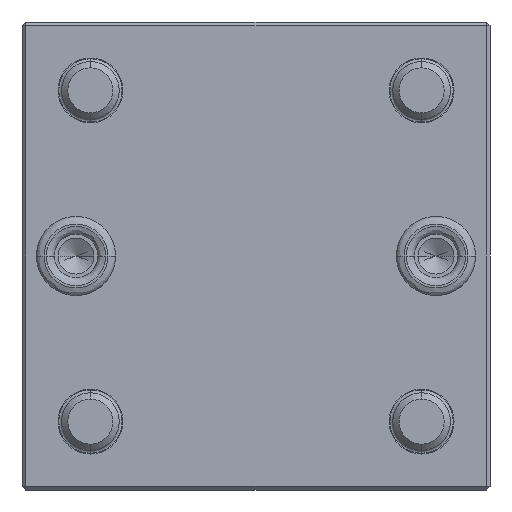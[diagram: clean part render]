
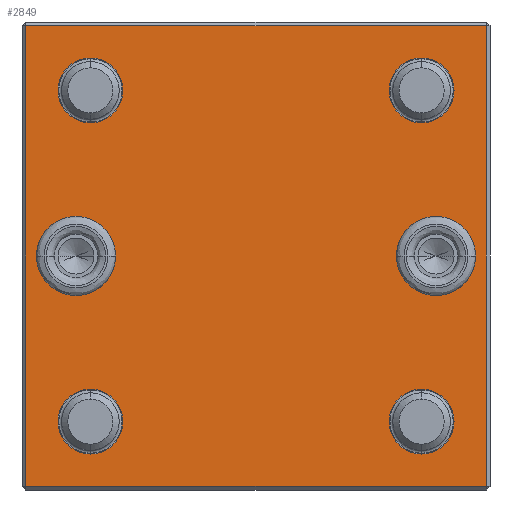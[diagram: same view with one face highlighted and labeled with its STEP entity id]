
A CAD part, front view. The second image highlights one B-rep face of the part: STEP entity #2849.
In plain terms, the highlighted planar face has unit normal (0, -1, 0).
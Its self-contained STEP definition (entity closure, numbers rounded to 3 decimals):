
#77 = EDGE_CURVE ( 'NONE', #1431, #8644, #4037, .T. ) ;
#87 = CIRCLE ( 'NONE', #3706, 4.5 ) ;
#92 = EDGE_CURVE ( 'NONE', #4885, #7647, #1162, .T. ) ;
#108 = EDGE_CURVE ( 'NONE', #3847, #2994, #1960, .T. ) ;
#145 = CARTESIAN_POINT ( 'NONE',  ( 32., -10., 32. ) ) ;
#166 = EDGE_CURVE ( 'NONE', #2445, #3378, #1562, .T. ) ;
#226 = ORIENTED_EDGE ( 'NONE', *, *, #1158, .T. ) ;
#238 = EDGE_CURVE ( 'NONE', #8644, #1431, #5147, .T. ) ;
#339 = EDGE_CURVE ( 'NONE', #423, #1509, #1179, .T. ) ;
#346 = CARTESIAN_POINT ( 'NONE',  ( -18.5, -10., 23. ) ) ;
#394 = AXIS2_PLACEMENT_3D ( 'NONE', #4094, #4021, #3997 ) ;
#397 = EDGE_CURVE ( 'NONE', #7893, #4646, #2678, .T. ) ;
#423 = VERTEX_POINT ( 'NONE', #5546 ) ;
#500 = EDGE_CURVE ( 'NONE', #7658, #2839, #6257, .T. ) ;
#604 = DIRECTION ( 'NONE',  ( 1., 0., 0. ) ) ;
#609 = EDGE_CURVE ( 'NONE', #5582, #3747, #8039, .T. ) ;
#653 = DIRECTION ( 'NONE',  ( -1., 0., 0. ) ) ;
#725 = DIRECTION ( 'NONE',  ( 0., 1., 0. ) ) ;
#747 = CARTESIAN_POINT ( 'NONE',  ( 30.5, -10., 0. ) ) ;
#865 = CARTESIAN_POINT ( 'NONE',  ( -23., -10., -23. ) ) ;
#1050 = AXIS2_PLACEMENT_3D ( 'NONE', #865, #725, #1095 ) ;
#1095 = DIRECTION ( 'NONE',  ( 1., 0., 0. ) ) ;
#1158 = EDGE_CURVE ( 'NONE', #4646, #7893, #4330, .T. ) ;
#1162 = CIRCLE ( 'NONE', #3243, 5.5 ) ;
#1179 = CIRCLE ( 'NONE', #1345, 4.5 ) ;
#1345 = AXIS2_PLACEMENT_3D ( 'NONE', #1463, #3645, #604 ) ;
#1431 = VERTEX_POINT ( 'NONE', #346 ) ;
#1463 = CARTESIAN_POINT ( 'NONE',  ( 23., -10., -23. ) ) ;
#1509 = VERTEX_POINT ( 'NONE', #5625 ) ;
#1562 = CIRCLE ( 'NONE', #2710, 4.5 ) ;
#1712 = DIRECTION ( 'NONE',  ( 0., 1., 0. ) ) ;
#1937 = DIRECTION ( 'NONE',  ( 1., 0., 0. ) ) ;
#1960 = LINE ( 'NONE', #5863, #6107 ) ;
#2176 = EDGE_LOOP ( 'NONE', ( #8626, #3452 ) ) ;
#2233 = EDGE_CURVE ( 'NONE', #7647, #4885, #8162, .T. ) ;
#2362 = CARTESIAN_POINT ( 'NONE',  ( -23., -10., -23. ) ) ;
#2445 = VERTEX_POINT ( 'NONE', #7182 ) ;
#2521 = AXIS2_PLACEMENT_3D ( 'NONE', #7029, #7048, #7058 ) ;
#2678 = CIRCLE ( 'NONE', #1050, 4.5 ) ;
#2710 = AXIS2_PLACEMENT_3D ( 'NONE', #6301, #6313, #6321 ) ;
#2734 = CIRCLE ( 'NONE', #6752, 4.5 ) ;
#2807 = CARTESIAN_POINT ( 'NONE',  ( 19.5, -10., 0. ) ) ;
#2839 = VERTEX_POINT ( 'NONE', #5253 ) ;
#2849 = ADVANCED_FACE ( 'NONE', ( #5861, #5819, #5809, #5750, #5833, #5889, #5854 ), #5087, .F. ) ;
#2963 = AXIS2_PLACEMENT_3D ( 'NONE', #4459, #8837, #653 ) ;
#2994 = VERTEX_POINT ( 'NONE', #5086 ) ;
#3053 = CARTESIAN_POINT ( 'NONE',  ( -30.5, -10., 0. ) ) ;
#3170 = EDGE_LOOP ( 'NONE', ( #8231, #7913 ) ) ;
#3184 = EDGE_LOOP ( 'NONE', ( #5001, #3500 ) ) ;
#3243 = AXIS2_PLACEMENT_3D ( 'NONE', #5682, #5693, #5697 ) ;
#3378 = VERTEX_POINT ( 'NONE', #3411 ) ;
#3403 = AXIS2_PLACEMENT_3D ( 'NONE', #5461, #5470, #5482 ) ;
#3411 = CARTESIAN_POINT ( 'NONE',  ( 27.5, -10., 23. ) ) ;
#3452 = ORIENTED_EDGE ( 'NONE', *, *, #8786, .F. ) ;
#3500 = ORIENTED_EDGE ( 'NONE', *, *, #166, .T. ) ;
#3548 = ORIENTED_EDGE ( 'NONE', *, *, #2233, .F. ) ;
#3559 = EDGE_LOOP ( 'NONE', ( #6617, #3548 ) ) ;
#3645 = DIRECTION ( 'NONE',  ( 0., 1., 0. ) ) ;
#3706 = AXIS2_PLACEMENT_3D ( 'NONE', #7676, #7656, #7619 ) ;
#3747 = VERTEX_POINT ( 'NONE', #145 ) ;
#3847 = VERTEX_POINT ( 'NONE', #8234 ) ;
#3997 = DIRECTION ( 'NONE',  ( -1., 0., 0. ) ) ;
#4021 = DIRECTION ( 'NONE',  ( 0., -1., 0. ) ) ;
#4037 = CIRCLE ( 'NONE', #3403, 4.5 ) ;
#4068 = EDGE_CURVE ( 'NONE', #3378, #2445, #87, .T. ) ;
#4094 = CARTESIAN_POINT ( 'NONE',  ( -25., -10., 0. ) ) ;
#4303 = EDGE_CURVE ( 'NONE', #3747, #3847, #8256, .T. ) ;
#4304 = EDGE_LOOP ( 'NONE', ( #6679, #6681 ) ) ;
#4330 = CIRCLE ( 'NONE', #7592, 4.5 ) ;
#4459 = CARTESIAN_POINT ( 'NONE',  ( 25., -10., 0. ) ) ;
#4605 = DIRECTION ( 'NONE',  ( 1., 0., 0. ) ) ;
#4646 = VERTEX_POINT ( 'NONE', #6253 ) ;
#4885 = VERTEX_POINT ( 'NONE', #2807 ) ;
#4892 = DIRECTION ( 'NONE',  ( 0., 1., 0. ) ) ;
#4898 = AXIS2_PLACEMENT_3D ( 'NONE', #4992, #4892, #4605 ) ;
#4992 = CARTESIAN_POINT ( 'NONE',  ( 32.5, -10., 32.5 ) ) ;
#5001 = ORIENTED_EDGE ( 'NONE', *, *, #4068, .T. ) ;
#5012 = AXIS2_PLACEMENT_3D ( 'NONE', #7422, #7412, #7405 ) ;
#5086 = CARTESIAN_POINT ( 'NONE',  ( -32., -10., -32. ) ) ;
#5087 = PLANE ( 'NONE',  #4898 ) ;
#5147 = CIRCLE ( 'NONE', #2521, 4.5 ) ;
#5253 = CARTESIAN_POINT ( 'NONE',  ( -19.5, -10., 0. ) ) ;
#5461 = CARTESIAN_POINT ( 'NONE',  ( -23., -10., 23. ) ) ;
#5470 = DIRECTION ( 'NONE',  ( 0., 1., 0. ) ) ;
#5482 = DIRECTION ( 'NONE',  ( 1., 0., 0. ) ) ;
#5546 = CARTESIAN_POINT ( 'NONE',  ( 18.5, -10., -23. ) ) ;
#5582 = VERTEX_POINT ( 'NONE', #6712 ) ;
#5625 = CARTESIAN_POINT ( 'NONE',  ( 27.5, -10., -23. ) ) ;
#5682 = CARTESIAN_POINT ( 'NONE',  ( 25., -10., 0. ) ) ;
#5693 = DIRECTION ( 'NONE',  ( 0., -1., 0. ) ) ;
#5697 = DIRECTION ( 'NONE',  ( -1., 0., 0. ) ) ;
#5750 = FACE_BOUND ( 'NONE', #3170, .T. ) ;
#5798 = CIRCLE ( 'NONE', #5012, 5.5 ) ;
#5809 = FACE_BOUND ( 'NONE', #2176, .T. ) ;
#5819 = FACE_BOUND ( 'NONE', #3559, .T. ) ;
#5833 = FACE_BOUND ( 'NONE', #3184, .T. ) ;
#5854 = FACE_BOUND ( 'NONE', #5952, .T. ) ;
#5857 = VECTOR ( 'NONE', #6184, 1000. ) ;
#5861 = FACE_OUTER_BOUND ( 'NONE', #6233, .T. ) ;
#5863 = CARTESIAN_POINT ( 'NONE',  ( -32., -10., -32.5 ) ) ;
#5889 = FACE_BOUND ( 'NONE', #4304, .T. ) ;
#5896 = DIRECTION ( 'NONE',  ( 0., 0., -1. ) ) ;
#5911 = EDGE_CURVE ( 'NONE', #1509, #423, #2734, .T. ) ;
#5949 = VECTOR ( 'NONE', #8489, 1000. ) ;
#5952 = EDGE_LOOP ( 'NONE', ( #7692, #226 ) ) ;
#5968 = DIRECTION ( 'NONE',  ( 1., 0., 0. ) ) ;
#5992 = DIRECTION ( 'NONE',  ( 0., 1., 0. ) ) ;
#6005 = CARTESIAN_POINT ( 'NONE',  ( 23., -10., -23. ) ) ;
#6107 = VECTOR ( 'NONE', #5896, 1000. ) ;
#6184 = DIRECTION ( 'NONE',  ( 0., 0., 1. ) ) ;
#6233 = EDGE_LOOP ( 'NONE', ( #7610, #6559, #7082, #6572 ) ) ;
#6253 = CARTESIAN_POINT ( 'NONE',  ( -27.5, -10., -23. ) ) ;
#6257 = CIRCLE ( 'NONE', #394, 5.5 ) ;
#6301 = CARTESIAN_POINT ( 'NONE',  ( 23., -10., 23. ) ) ;
#6313 = DIRECTION ( 'NONE',  ( 0., 1., 0. ) ) ;
#6321 = DIRECTION ( 'NONE',  ( 1., 0., 0. ) ) ;
#6414 = CARTESIAN_POINT ( 'NONE',  ( 32., -10., 32.5 ) ) ;
#6559 = ORIENTED_EDGE ( 'NONE', *, *, #108, .T. ) ;
#6572 = ORIENTED_EDGE ( 'NONE', *, *, #609, .T. ) ;
#6617 = ORIENTED_EDGE ( 'NONE', *, *, #92, .F. ) ;
#6679 = ORIENTED_EDGE ( 'NONE', *, *, #5911, .T. ) ;
#6681 = ORIENTED_EDGE ( 'NONE', *, *, #339, .T. ) ;
#6712 = CARTESIAN_POINT ( 'NONE',  ( 32., -10., -32. ) ) ;
#6752 = AXIS2_PLACEMENT_3D ( 'NONE', #6005, #5992, #5968 ) ;
#7029 = CARTESIAN_POINT ( 'NONE',  ( -23., -10., 23. ) ) ;
#7048 = DIRECTION ( 'NONE',  ( 0., 1., 0. ) ) ;
#7058 = DIRECTION ( 'NONE',  ( 1., 0., 0. ) ) ;
#7082 = ORIENTED_EDGE ( 'NONE', *, *, #8034, .T. ) ;
#7182 = CARTESIAN_POINT ( 'NONE',  ( 18.5, -10., 23. ) ) ;
#7286 = DIRECTION ( 'NONE',  ( -1., 0., 0. ) ) ;
#7386 = CARTESIAN_POINT ( 'NONE',  ( 32.5, -10., 32. ) ) ;
#7405 = DIRECTION ( 'NONE',  ( -1., 0., 0. ) ) ;
#7412 = DIRECTION ( 'NONE',  ( 0., -1., 0. ) ) ;
#7422 = CARTESIAN_POINT ( 'NONE',  ( -25., -10., 0. ) ) ;
#7592 = AXIS2_PLACEMENT_3D ( 'NONE', #2362, #1712, #1937 ) ;
#7610 = ORIENTED_EDGE ( 'NONE', *, *, #4303, .T. ) ;
#7619 = DIRECTION ( 'NONE',  ( 1., 0., 0. ) ) ;
#7647 = VERTEX_POINT ( 'NONE', #747 ) ;
#7656 = DIRECTION ( 'NONE',  ( 0., 1., 0. ) ) ;
#7658 = VERTEX_POINT ( 'NONE', #3053 ) ;
#7676 = CARTESIAN_POINT ( 'NONE',  ( 23., -10., 23. ) ) ;
#7692 = ORIENTED_EDGE ( 'NONE', *, *, #397, .T. ) ;
#7885 = CARTESIAN_POINT ( 'NONE',  ( -27.5, -10., 23. ) ) ;
#7893 = VERTEX_POINT ( 'NONE', #8590 ) ;
#7913 = ORIENTED_EDGE ( 'NONE', *, *, #238, .T. ) ;
#8034 = EDGE_CURVE ( 'NONE', #2994, #5582, #8668, .T. ) ;
#8039 = LINE ( 'NONE', #6414, #5857 ) ;
#8162 = CIRCLE ( 'NONE', #2963, 5.5 ) ;
#8229 = VECTOR ( 'NONE', #7286, 1000. ) ;
#8231 = ORIENTED_EDGE ( 'NONE', *, *, #77, .T. ) ;
#8234 = CARTESIAN_POINT ( 'NONE',  ( -32., -10., 32. ) ) ;
#8256 = LINE ( 'NONE', #7386, #8229 ) ;
#8324 = CARTESIAN_POINT ( 'NONE',  ( 32.5, -10., -32. ) ) ;
#8489 = DIRECTION ( 'NONE',  ( 1., 0., 0. ) ) ;
#8590 = CARTESIAN_POINT ( 'NONE',  ( -18.5, -10., -23. ) ) ;
#8626 = ORIENTED_EDGE ( 'NONE', *, *, #500, .F. ) ;
#8644 = VERTEX_POINT ( 'NONE', #7885 ) ;
#8668 = LINE ( 'NONE', #8324, #5949 ) ;
#8786 = EDGE_CURVE ( 'NONE', #2839, #7658, #5798, .T. ) ;
#8837 = DIRECTION ( 'NONE',  ( 0., -1., 0. ) ) ;
